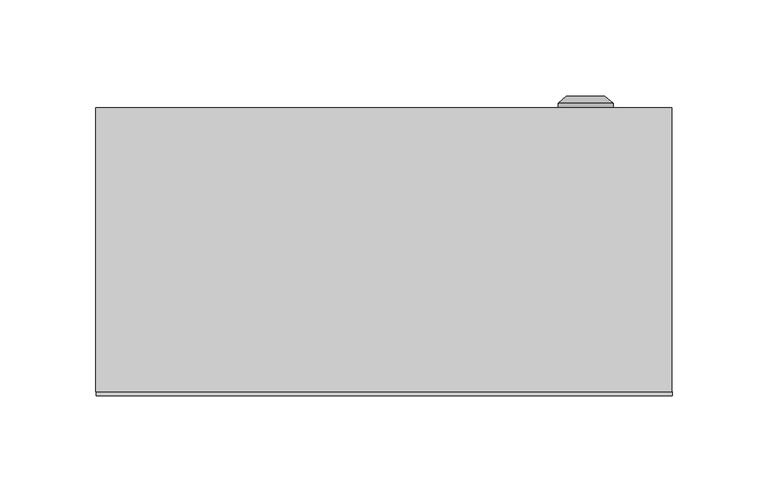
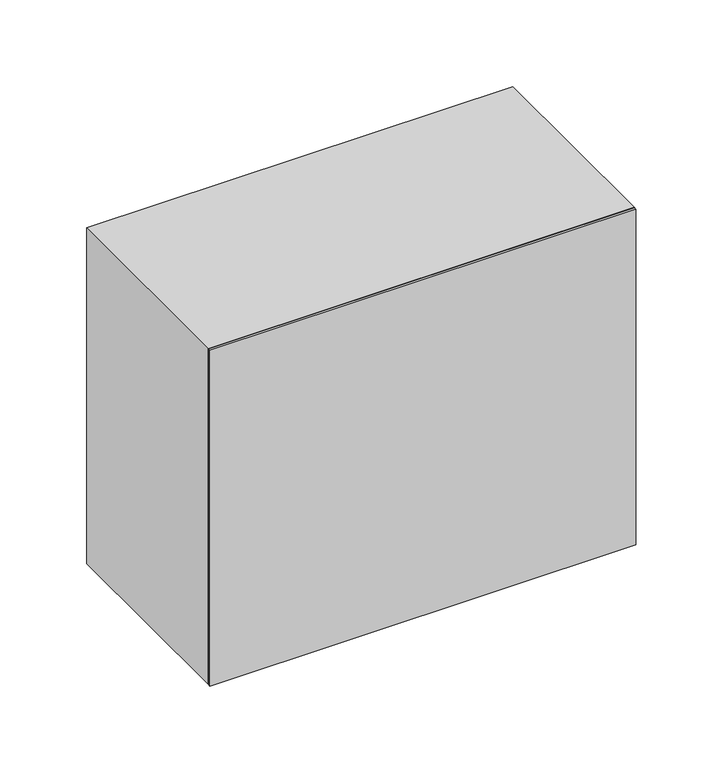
"""IFC4 building model written with IfcOpenShell, lengths in millimetres: proxy geometry, ЩМП : ЩМП-2.3.1-0_250х300х150."""

from ifc_helpers import new_model, si_unit, frame, origin, origin_with_axes, place, context, project, spatial, polyline, circle_curve, outline, extrude, source, transform, mapped, element, save
from ifc_brep_helpers import plane_surface, cylinder_surface, revolved_surface, advanced_brep


def electrical_equipment_1d639574(model_context):
    return source(origin(), model_context, "Body", "SolidModel", [
        advanced_brep(
        [(90.669873, 150.0, 125.0), (119.330127, 150.0, 125.0), (105.0, 150.0, 125.0), (90.669873, 152.366592, 125.0), (119.330127, 152.366592, 125.0), (95.0, 156.0, 125.0), (115.0, 156.0, 125.0), (103.1080471, 156.0, 125.0), (106.8919529, 156.0, 125.0), (103.1080471, 154.9822294, 125.0), (106.8919529, 154.9822294, 125.0), (105.0, 154.9822294, 125.0)],
        [
            (0, 1, circle_curve(frame((105.0, 150.0, 125.0), z_axis=(0.0, -1.0, 0.0), x_axis=(1.0, 0.0, 0.0)), 14.330127)),
            (1, 2),
            (2, 0),
            (1, 0, circle_curve(frame((105.0, 150.0, 125.0), z_axis=(0.0, -1.0, 0.0), x_axis=(1.0, 0.0, 0.0)), 14.330127)),
            (3, 4, circle_curve(frame((105.0, 152.366592, 125.0), z_axis=(0.0, -1.0, 0.0), x_axis=(1.0, 0.0, 0.0)), 14.330127)),
            (4, 1),
            (0, 3),
            (4, 3, circle_curve(frame((105.0, 152.366592, 125.0), z_axis=(0.0, -1.0, 0.0), x_axis=(1.0, 0.0, 0.0)), 14.330127)),
            (5, 6, circle_curve(frame((105.0, 156.0, 125.0), z_axis=(0.0, -1.0, 0.0), x_axis=(1.0, 0.0, 0.0)), 10.0)),
            (6, 4),
            (3, 5),
            (6, 5, circle_curve(frame((105.0, 156.0, 125.0), z_axis=(0.0, -1.0, 0.0), x_axis=(1.0, 0.0, 0.0)), 10.0)),
            (7, 8, circle_curve(frame((105.0, 156.0, 125.0), z_axis=(0.0, -1.0, 0.0), x_axis=(1.0, 0.0, 0.0)), 1.8919529)),
            (8, 6),
            (5, 7),
            (8, 7, circle_curve(frame((105.0, 156.0, 125.0), z_axis=(0.0, -1.0, 0.0), x_axis=(1.0, 0.0, 0.0)), 1.8919529)),
            (9, 10, circle_curve(frame((105.0, 154.9822294, 125.0), z_axis=(0.0, -1.0, 0.0), x_axis=(1.0, 0.0, 0.0)), 1.8919529)),
            (10, 8),
            (7, 9),
            (10, 9, circle_curve(frame((105.0, 154.9822294, 125.0), z_axis=(0.0, -1.0, 0.0), x_axis=(1.0, 0.0, 0.0)), 1.8919529)),
            (11, 10),
            (9, 11),
        ],
        [
            plane_surface(frame((105.0, 150.0, 125.0), z_axis=(0.0, -1.0, 0.0), x_axis=(1.0, 0.0, 0.0))),
            cylinder_surface(frame((105.0, 163.1348851, 125.0), z_axis=(0.0, 1.0, 0.0), x_axis=(1.0, 0.0, 0.0)), 14.330127),
            revolved_surface(polyline([(119.330127, 152.366592, 125.0), (115.0, 156.0, 125.0)]), (105.0, 163.1348851, 125.0), (0.0, 1.0, 0.0)),
            plane_surface(frame((105.0, 156.0, 125.0), z_axis=(0.0, 1.0, 0.0), x_axis=(1.0, 0.0, 0.0))),
            revolved_surface(polyline([(106.8919529, 156.0, 125.0), (106.8919529, 154.9822294, 125.0)]), (105.0, 163.1348851, 125.0), (0.0, 1.0, 0.0)),
            plane_surface(frame((105.0, 154.9822294, 125.0), z_axis=(0.0, 1.0, 0.0), x_axis=(1.0, 0.0, 0.0))),
        ],
        [
            (0, [[1, 2, 3]]),
            (0, [[4, -3, -2]]),
            (1, [[5, 6, -1, 7]]),
            (1, [[8, -7, -4, -6]]),
            (2, [[9, 10, -5, 11]]),
            (2, [[12, -11, -8, -10]]),
            (3, [[13, 14, -9, 15]]),
            (3, [[16, -15, -12, -14]]),
            (4, [[17, 18, -13, 19]]),
            (4, [[20, -19, -16, -18]]),
            (5, [[21, -17, 22]]),
            (5, [[-22, -20, -21]]),
        ],
    ),
        extrude(outline(polyline([(131.5, 125.0), (-131.5, 125.0), (-131.5, 150.0), (131.5, 150.0), (131.5, 125.0)])), frame((0.0, 0.0, 18.5), z_axis=(0.0, 0.0, 1.0), x_axis=(1.0, 0.0, 0.0)), (0.0, 0.0, 1.0), 213.0),
        extrude(outline(polyline([(250.0, -150.0033905), (0.0, -150.0033905), (0.0, 149.9966095), (250.0, 149.9966095), (250.0, -150.0033905)]), holes=[polyline([(215.0, -115.0033905), (215.0, 114.9966095), (35.0, 114.9966095), (35.0, -115.0033905), (215.0, -115.0033905)])]), frame((0.0, 2.0, 0.0), z_axis=(0.0, 1.0, 0.0), x_axis=(0.0, 0.0, 1.0)), (0.0, 0.0, 1.0), 148.0),
        extrude(outline(polyline([(150.0, 0.0), (-150.0, 0.0), (-150.0, 2.0), (150.0, 2.0), (150.0, 0.0)])), origin_with_axes(), (0.0, 0.0, 1.0), 250.0),
    ])


if __name__ == "__main__":
    model = new_model("IFC4")
    model_context = context("Model", 3, world=origin())
    ifc_project = project(units=[si_unit("LENGTHUNIT", "METRE", prefix="MILLI")], contexts=[model_context])
    site = spatial("IfcSite", under=ifc_project)
    building = spatial("IfcBuilding", under=site)
    placement = place(None, origin())
    electrical_equipment_shape = electrical_equipment_1d639574(model_context)
    element("IfcBuildingElementProxy", 1, Name="ЩМП : ЩМП-2.3.1-0_250х300х150", ObjectType="ЩМП : ЩМП-2.3.1-0_250х300х150", at=placement, inside=building, context=model_context, shape_type="MappedRepresentation", body=[
        mapped(electrical_equipment_shape, transform((0.0, 0.0, 0.0), x_axis=(1.0, 0.0, 0.0), y_axis=(0.0, 1.0, 0.0), z_axis=(0.0, 0.0, 1.0))),
    ])
    save(model, "model.ifc")
